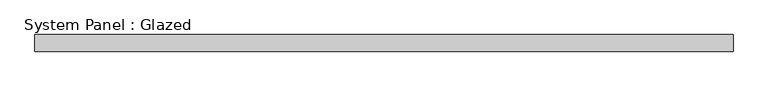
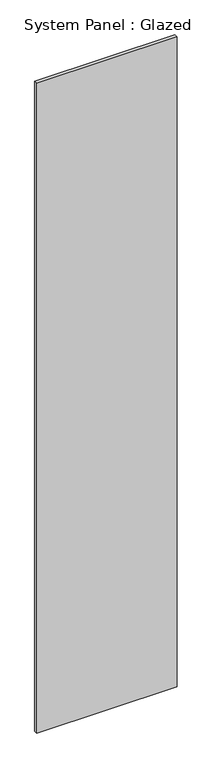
"""IFC4 building model written with IfcOpenShell, lengths in millimetres: plate geometry, System Panel : Glazed."""

from ifc_helpers import new_model, si_unit, origin, origin_with_axes, place, context, project, spatial, polyline, outline, extrude, source, transform, mapped, element, save


def system_panel_glazed_0dd6046c(model_context):
    return source(origin(), model_context, "Body", "SweptSolid", [
        extrude(outline(polyline([(519.7233226, -12.5), (-519.7233226, -12.5), (-519.7233226, 12.5), (519.7233226, 12.5), (519.7233226, -12.5)])), origin_with_axes(), (0.0, 0.0, 1.0), 5080.0),
    ])


if __name__ == "__main__":
    model = new_model("IFC4")
    model_context = context("Model", 3, world=origin())
    ifc_project = project(units=[si_unit("LENGTHUNIT", "METRE", prefix="MILLI")], contexts=[model_context])
    site = spatial("IfcSite", under=ifc_project)
    building = spatial("IfcBuilding", under=site)
    placement = place(None, origin())
    system_panel_glazed_shape = system_panel_glazed_0dd6046c(model_context)
    element("IfcPlate", 1, ObjectType="System Panel : Glazed", at=placement, inside=building, context=model_context, shape_type="MappedRepresentation", body=[
        mapped(system_panel_glazed_shape, transform((0.0, 0.0, 0.0), x_axis=(1.0, 0.0, 0.0), y_axis=(0.0, 1.0, 0.0), z_axis=(0.0, 0.0, 1.0))),
    ])
    save(model, "model.ifc")
